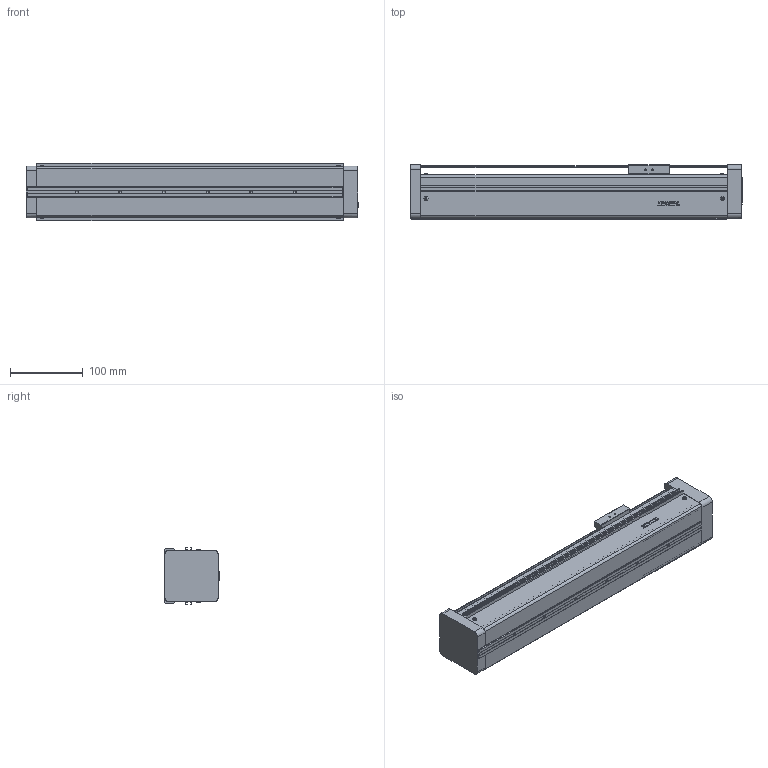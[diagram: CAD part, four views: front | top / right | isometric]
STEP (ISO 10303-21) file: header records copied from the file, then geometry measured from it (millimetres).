
FILE_DESCRIPTION(/* description */ (''),/* implementation_level */ '2;1');
FILE_NAME(/* name */ 'D:\混合母檔20191031\混和母檔\混和母檔\bin\Debug\Download\3D\KE705C-250AF0\KE705C-250AF0.stp',/* time_stamp */ '2019-11-04T14:01:29+08:00',/* author */ ('user'),/* organization */ (''),/* preprocessor_version */ 'ST-DEVELOPER v16.13',/* originating_system */ 'Autodesk Inventor 2018',/* authorisation */ '');
FILE_SCHEMA (('AUTOMOTIVE_DESIGN { 1 0 10303 214 3 1 1 }','TECHNICAL_DATA_PACKAGING'));
Length unit declared in the file: millimetre
Products named in the file (3): KE705C-250AF0; KE70-F0-BP; KE70-SL
Assembly tree (2 placements, depth 2):
  KE705C-250AF0
    KE70-F0-BP
    KE70-SL
Bounding box: 457 x 75 x 79.4 mm (x, y, z)
Volume: 1892152.9 mm3; surface area: 284303.9 mm2
Topology: 2 solids, 29 shells, 817 faces, 2172 edges, 1425 vertices
Faces by surface type: plane 493, bspline 148, cylinder 104, cone 60, torus 12
Full cylindrical faces by diameter (mm): 2.459 x20, 3 x12, 3.242 x6, 3.5 x16, 4.134 x10, 5.7 x12, 6 x5, 30 x1
Entity records: 27332 total; most frequent: CARTESIAN_POINT 8709, ORIENTED_EDGE 3838, DIRECTION 3248, EDGE_CURVE 1919, VERTEX_POINT 1326, LINE 1260, VECTOR 1260, EDGE_LOOP 1023
